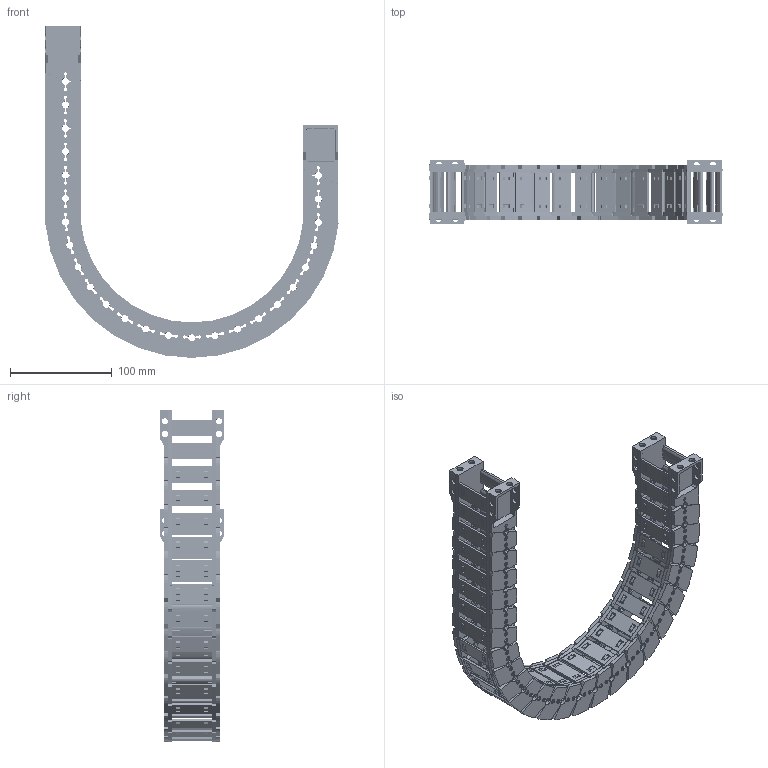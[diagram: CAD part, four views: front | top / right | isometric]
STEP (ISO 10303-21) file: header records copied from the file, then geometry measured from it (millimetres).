
FILE_DESCRIPTION(/* description */ (''),/* implementation_level */ '2;1');
FILE_NAME(/* name */ 'JY28-38-R125.stp',/* time_stamp */ '2026-06-03T14:03:06+08:00',/* author */ (''),/* organization */ (''),/* preprocessor_version */ 'ST-DEVELOPER v19.4',/* originating_system */ 'SIEMENS PLM Software NX2306.5001',/* authorisation */ '');
FILE_SCHEMA (('AP203_CONFIGURATION_CONTROLLED_3D_DESIGN_OF_MECHANICAL_PARTS_AND_ASSEMBLIES_MIM_LF { 1 0 10303 403 2 1 2}'));
Products named in the file (1): _model1_objects
Bounding box: 287.57 x 63 x 325.62 mm (x, y, z)
Volume: 381293.1 mm3; surface area: 279165 mm2
Topology: 98 solids, 98 shells, 8138 faces, 23150 edges, 15130 vertices
Faces by surface type: plane 5330, cone 1480, cylinder 1278, bspline 48, torus 2
Full cylindrical faces by diameter (mm): 6 x24
Entity records: 275371 total; most frequent: CARTESIAN_POINT 61217, ORIENTED_EDGE 46208, DIRECTION 43382, EDGE_CURVE 23104, LINE 15292, VECTOR 15292, VERTEX_POINT 15108, AXIS2_PLACEMENT_3D 14045
